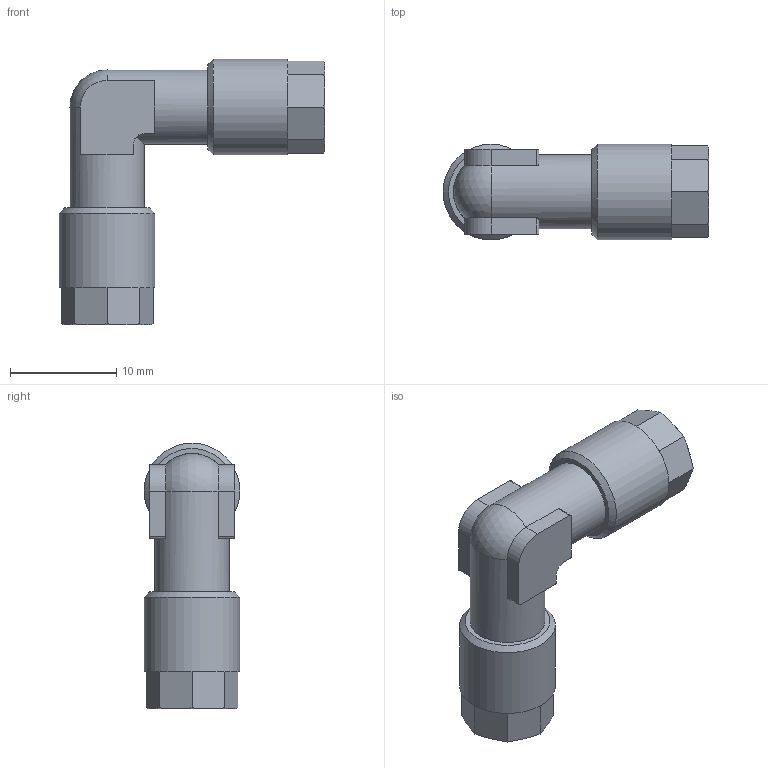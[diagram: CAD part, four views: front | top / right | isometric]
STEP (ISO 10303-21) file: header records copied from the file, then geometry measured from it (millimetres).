
FILE_DESCRIPTION(/* description */ (''),/* implementation_level */ '2;1');
FILE_NAME(/* name */ '11302_306_53_02.02.17',/* time_stamp */ '2017-02-02T08:45:56+01:00',/* author */ (''),/* organization */ (''),/* preprocessor_version */ 'ST-DEVELOPER v16.5',/* originating_system */ 'HiCAD 2016 2102.0 Build 402',/* authorisation */ '');
FILE_SCHEMA (('AUTOMOTIVE_DESIGN { 1 0 10303 214 1 1 1 1 }'));
Length unit declared in the file: millimetre
Products named in the file (4): Root; R11302; 17003
Assembly tree (3 placements, depth 2):
  Root
    R11302
    17003
    17003
Bounding box: 25 x 9 x 25 mm (x, y, z)
Volume: 1944 mm3; surface area: 2263.7 mm2
Topology: 3 solids, 3 shells, 105 faces, 252 edges, 157 vertices
Faces by surface type: plane 42, cone 32, cylinder 28, torus 2, sphere 1
Full cylindrical faces by diameter (mm): 2 x2, 3.6 x2, 5 x2, 6.08 x2, 7 x2, 9 x2
Entity records: 6678 total; most frequent: CARTESIAN_POINT 2282, DIRECTION 530, PRESENTATION_STYLE_ASSIGNMENT 411, COLOUR_RGB 409, DRAUGHTING_PRE_DEFINED_CURVE_FONT 408, CURVE_STYLE 408, OVER_RIDING_STYLED_ITEM 408, ORIENTED_EDGE 408
